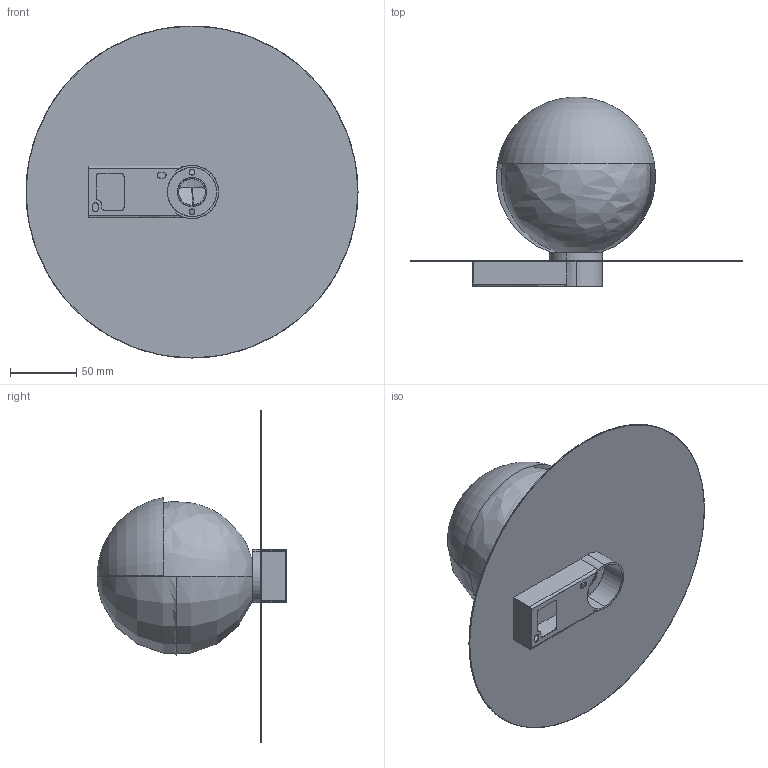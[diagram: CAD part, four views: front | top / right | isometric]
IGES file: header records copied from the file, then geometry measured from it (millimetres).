
Start section: SolidWorks IGES file using analytic representation for surfaces
Global section: file name: C:\Users\anna.bielnik\Desktop\SATURN M\NL2500026672.IGS; native system: SolidWorks 2025; preprocessor: SolidWorks 2025; author: anna.bielnik; date: 260413.075148; units: millimetre
Bounding box: 250 x 142.88 x 250 mm (x, y, z)
Surface area: 198069.8 mm2 (no closed solid volume)
Topology: 0 solids, 0 shells, 92 faces, 1533 edges, 1530 vertices
Faces by surface type: bspline 48, revolution 44
